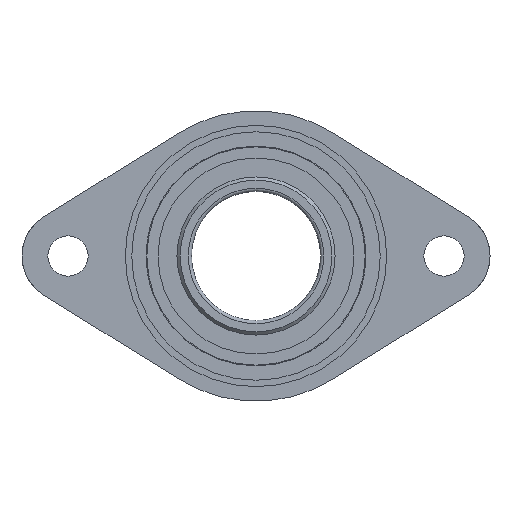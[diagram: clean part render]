
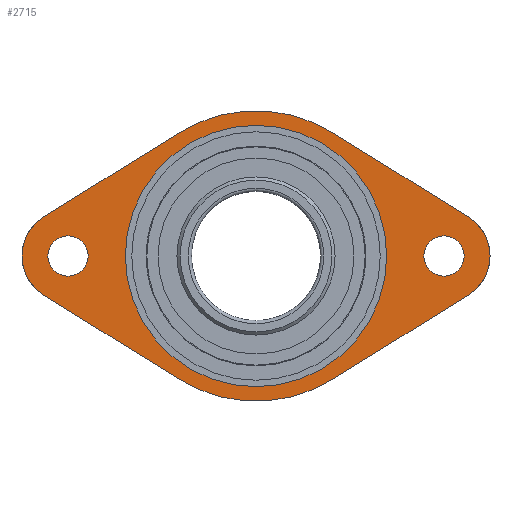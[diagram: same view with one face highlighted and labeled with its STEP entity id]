
A CAD part, left-side view. The second image highlights one B-rep face of the part: STEP entity #2715.
In plain terms, the highlighted planar face has unit normal (-1, 0, 0).
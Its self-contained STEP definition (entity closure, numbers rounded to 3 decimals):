
#87 = CARTESIAN_POINT ( 'NONE',  ( -34., 47.511, -76.438 ) ) ;
#145 = ORIENTED_EDGE ( 'NONE', *, *, #2775, .F. ) ;
#149 = EDGE_LOOP ( 'NONE', ( #297 ) ) ;
#168 = CARTESIAN_POINT ( 'NONE',  ( -34., 131.545, -24.205 ) ) ;
#189 = CIRCLE ( 'NONE', #1899, 12.5 ) ;
#198 = CARTESIAN_POINT ( 'NONE',  ( -34., -116.5, 0. ) ) ;
#279 = CARTESIAN_POINT ( 'NONE',  ( -34., 0., -81. ) ) ;
#297 = ORIENTED_EDGE ( 'NONE', *, *, #1084, .T. ) ;
#305 = CARTESIAN_POINT ( 'NONE',  ( -34., -47.511, -76.438 ) ) ;
#310 = VERTEX_POINT ( 'NONE', #929 ) ;
#316 = DIRECTION ( 'NONE',  ( 1., 0., 0. ) ) ;
#354 = ORIENTED_EDGE ( 'NONE', *, *, #2234, .F. ) ;
#384 = ORIENTED_EDGE ( 'NONE', *, *, #1409, .T. ) ;
#400 = DIRECTION ( 'NONE',  ( 1., 0., 0. ) ) ;
#402 = LINE ( 'NONE', #1311, #2413 ) ;
#483 = DIRECTION ( 'NONE',  ( 1., 0., 0. ) ) ;
#509 = CARTESIAN_POINT ( 'NONE',  ( -34., 0., 0. ) ) ;
#529 = DIRECTION ( 'NONE',  ( 0., 0., -1. ) ) ;
#733 = VERTEX_POINT ( 'NONE', #2566 ) ;
#752 = VERTEX_POINT ( 'NONE', #2723 ) ;
#754 = CIRCLE ( 'NONE', #2768, 90. ) ;
#788 = ORIENTED_EDGE ( 'NONE', *, *, #926, .T. ) ;
#806 = DIRECTION ( 'NONE',  ( 1., 0., 0. ) ) ;
#809 = CARTESIAN_POINT ( 'NONE',  ( -34., 0., 0. ) ) ;
#854 = LINE ( 'NONE', #1856, #2199 ) ;
#899 = ORIENTED_EDGE ( 'NONE', *, *, #1128, .F. ) ;
#926 = EDGE_CURVE ( 'E319', #733, #1718, #1476, .T. ) ;
#929 = CARTESIAN_POINT ( 'NONE',  ( -34., 131.545, 24.205 ) ) ;
#972 = CARTESIAN_POINT ( 'NONE',  ( -34., -116.5, -12.5 ) ) ;
#976 = ORIENTED_EDGE ( 'NONE', *, *, #2858, .F. ) ;
#977 = ORIENTED_EDGE ( 'NONE', *, *, #1444, .T. ) ;
#980 = AXIS2_PLACEMENT_3D ( 'NONE', #2421, #2396, #2275 ) ;
#1008 = EDGE_CURVE ( 'E272', #310, #2773, #402, .T. ) ;
#1084 = EDGE_CURVE ( 'NONE', #3072, #3072, #189, .T. ) ;
#1128 = EDGE_CURVE ( 'E408', #752, #2020, #854, .T. ) ;
#1164 = CIRCLE ( 'NONE', #2899, 90. ) ;
#1179 = CIRCLE ( 'NONE', #2420, 28.5 ) ;
#1224 = CIRCLE ( 'NONE', #2370, 28.5 ) ;
#1284 = DIRECTION ( 'NONE',  ( 0., 0.849, 0.528 ) ) ;
#1287 = EDGE_LOOP ( 'NONE', ( #899, #976, #788, #354, #1433, #145, #1879, #1871 ) ) ;
#1289 = CARTESIAN_POINT ( 'NONE',  ( -34., -131.545, 24.205 ) ) ;
#1311 = CARTESIAN_POINT ( 'NONE',  ( -34., 131.545, 24.205 ) ) ;
#1326 = DIRECTION ( 'NONE',  ( 0., -0.849, 0.528 ) ) ;
#1409 = EDGE_CURVE ( 'NONE', #3062, #3062, #2760, .T. ) ;
#1430 = CARTESIAN_POINT ( 'NONE',  ( -34., -47.511, 76.438 ) ) ;
#1433 = ORIENTED_EDGE ( 'NONE', *, *, #1008, .F. ) ;
#1444 = EDGE_CURVE ( 'NONE', #3058, #3058, #1564, .T. ) ;
#1460 = CARTESIAN_POINT ( 'NONE',  ( -34., -116.5, 0. ) ) ;
#1464 = DIRECTION ( 'NONE',  ( 1., 0., 0. ) ) ;
#1470 = DIRECTION ( 'NONE',  ( 0., 0., -1. ) ) ;
#1476 = LINE ( 'NONE', #1289, #2187 ) ;
#1496 = EDGE_LOOP ( 'NONE', ( #384 ) ) ;
#1509 = FACE_OUTER_BOUND ( 'NONE', #1287, .T. ) ;
#1542 = EDGE_CURVE ( 'E455', #1765, #2757, #2815, .T. ) ;
#1564 = CIRCLE ( 'NONE', #2696, 81. ) ;
#1654 = DIRECTION ( 'NONE',  ( 0., 0., -1. ) ) ;
#1663 = CARTESIAN_POINT ( 'NONE',  ( -34., 47.511, 76.438 ) ) ;
#1678 = DIRECTION ( 'NONE',  ( 0., 0., -1. ) ) ;
#1693 = DIRECTION ( 'NONE',  ( 1., 0., 0. ) ) ;
#1718 = VERTEX_POINT ( 'NONE', #1430 ) ;
#1765 = VERTEX_POINT ( 'NONE', #168 ) ;
#1854 = DIRECTION ( 'NONE',  ( 0., 0.849, -0.528 ) ) ;
#1856 = CARTESIAN_POINT ( 'NONE',  ( -34., -131.545, -24.205 ) ) ;
#1871 = ORIENTED_EDGE ( 'NONE', *, *, #2093, .F. ) ;
#1878 = DIRECTION ( 'NONE',  ( 0., 0., -1. ) ) ;
#1879 = ORIENTED_EDGE ( 'NONE', *, *, #1542, .T. ) ;
#1895 = FACE_BOUND ( 'NONE', #1496, .T. ) ;
#1899 = AXIS2_PLACEMENT_3D ( 'NONE', #1460, #1464, #1470 ) ;
#1910 = CARTESIAN_POINT ( 'NONE',  ( -34., 116.5, 0. ) ) ;
#1980 = EDGE_LOOP ( 'NONE', ( #977 ) ) ;
#2020 = VERTEX_POINT ( 'NONE', #305 ) ;
#2093 = EDGE_CURVE ( 'E429', #2020, #2757, #1164, .T. ) ;
#2130 = FACE_BOUND ( 'NONE', #149, .T. ) ;
#2152 = CARTESIAN_POINT ( 'NONE',  ( -34., 116.5, -12.5 ) ) ;
#2187 = VECTOR ( 'NONE', #1284, 1000. ) ;
#2199 = VECTOR ( 'NONE', #1854, 1000. ) ;
#2216 = DIRECTION ( 'NONE',  ( 0., 0., -1. ) ) ;
#2234 = EDGE_CURVE ( 'E293', #2773, #1718, #754, .T. ) ;
#2275 = DIRECTION ( 'NONE',  ( 0., 0., -1. ) ) ;
#2297 = CARTESIAN_POINT ( 'NONE',  ( -34., 0., 0. ) ) ;
#2313 = DIRECTION ( 'NONE',  ( 1., 0., 0. ) ) ;
#2319 = DIRECTION ( 'NONE',  ( 0., 0., -1. ) ) ;
#2370 = AXIS2_PLACEMENT_3D ( 'NONE', #198, #400, #1878 ) ;
#2396 = DIRECTION ( 'NONE',  ( 1., 0., 0. ) ) ;
#2407 = PLANE ( 'NONE',  #2428 ) ;
#2413 = VECTOR ( 'NONE', #1326, 1000. ) ;
#2420 = AXIS2_PLACEMENT_3D ( 'NONE', #1910, #483, #1654 ) ;
#2421 = CARTESIAN_POINT ( 'NONE',  ( -34., 116.5, 0. ) ) ;
#2428 = AXIS2_PLACEMENT_3D ( 'NONE', #509, #1693, #1678 ) ;
#2446 = CARTESIAN_POINT ( 'NONE',  ( -34., 131.545, -24.205 ) ) ;
#2496 = DIRECTION ( 'NONE',  ( 0., -0.849, -0.528 ) ) ;
#2566 = CARTESIAN_POINT ( 'NONE',  ( -34., -131.545, 24.205 ) ) ;
#2631 = CARTESIAN_POINT ( 'NONE',  ( -34., 0., 0. ) ) ;
#2696 = AXIS2_PLACEMENT_3D ( 'NONE', #2297, #2313, #2319 ) ;
#2715 = ADVANCED_FACE ( 'E533', ( #2861, #2130, #1895, #1509 ), #2407, .F. ) ;
#2723 = CARTESIAN_POINT ( 'NONE',  ( -34., -131.545, -24.205 ) ) ;
#2757 = VERTEX_POINT ( 'NONE', #87 ) ;
#2760 = CIRCLE ( 'NONE', #980, 12.5 ) ;
#2768 = AXIS2_PLACEMENT_3D ( 'NONE', #2631, #806, #529 ) ;
#2773 = VERTEX_POINT ( 'NONE', #1663 ) ;
#2775 = EDGE_CURVE ( 'E461', #1765, #310, #1179, .T. ) ;
#2815 = LINE ( 'NONE', #2446, #3039 ) ;
#2858 = EDGE_CURVE ( 'E325', #733, #752, #1224, .T. ) ;
#2861 = FACE_BOUND ( 'NONE', #1980, .T. ) ;
#2899 = AXIS2_PLACEMENT_3D ( 'NONE', #809, #316, #2216 ) ;
#3039 = VECTOR ( 'NONE', #2496, 1000. ) ;
#3058 = VERTEX_POINT ( 'NONE', #279 ) ;
#3062 = VERTEX_POINT ( 'NONE', #2152 ) ;
#3072 = VERTEX_POINT ( 'NONE', #972 ) ;
